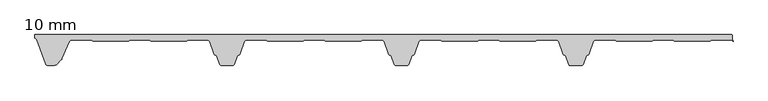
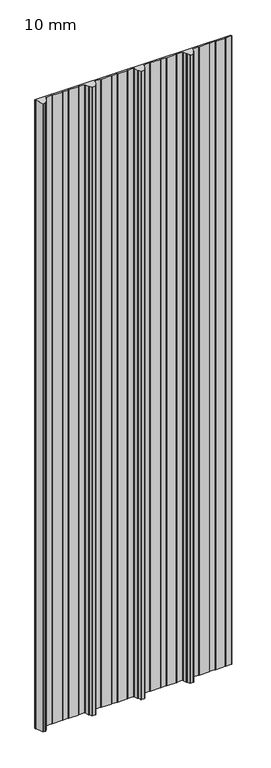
"""IFC4 building model written with IfcOpenShell, lengths in millimetres: plate geometry, HIANSA PANEL - H20.F01.011-PANELES DE CUBIERTA SIN TAPAJUNTA - EASY BOARD 5GR - Panel de Muro Cortina : 10 mm."""

from ifc_helpers import new_model, si_unit, point, frame, frame_2d, origin, place, context, project, spatial, polyline, circle_curve, trimmed, segment, composite_curve, outline, extrude, source, transform, mapped, element, save


def plate_10_mm_2f83bd50(model_context):
    return source(origin(), model_context, "Body", "SweptSolid", [
        extrude(outline(composite_curve([segment(polyline([(38.1345762, -522.6618875), (2.7449496, -509.7811169)]), True, "CONTINUOUS"), segment(trimmed(circle_curve(frame_2d((3.6, -507.4318853)), 2.5), [point((2.7449496, -509.7811169))], [point((1.1, -507.4318853))], False, "CARTESIAN"), True, "CONTINUOUS"), segment(polyline([(1.1, -507.4318853), (1.1, -497.4471173)]), True, "CONTINUOUS"), segment(trimmed(circle_curve(frame_2d((5.6, -497.4471173)), 4.5), [point((1.1, -497.4471173))], [point((2.4180195, -494.2651368))], False, "CARTESIAN"), True, "CONTINUOUS"), segment(polyline([(2.4180195, -494.2651368), (9.1048005, -487.5783558)]), True, "CONTINUOUS"), segment(trimmed(circle_curve(frame_2d((12.286781, -490.7603364)), 4.5), [point((9.1048005, -487.5783558))], [point((10.4972958, -486.6314451))], False, "CARTESIAN"), True, "CONTINUOUS"), segment(polyline([(10.4972958, -486.6314451), (35.3918218, -475.8420145)]), True, "CONTINUOUS"), segment(trimmed(circle_curve(frame_2d((34.0, -472.6306546)), 3.5), [point((35.3918218, -475.8420145))], [point((37.5, -472.6306546))], True, "CARTESIAN"), True, "CONTINUOUS"), segment(polyline([(37.5, -472.6306546), (37.5, -444.7657417)]), True, "CONTINUOUS"), segment(trimmed(circle_curve(frame_2d((35.0, -444.7657417)), 2.5), [point((37.5, -444.7657417))], [point((36.95557, -443.2082611))], True, "CARTESIAN"), True, "CONTINUOUS"), segment(polyline([(36.95557, -443.2082611), (36.3347606, -442.5534599)]), True, "CONTINUOUS"), segment(trimmed(circle_curve(frame_2d((37.5, -441.6088875)), 1.5), [point((36.3347606, -442.5534599))], [point((36.0, -441.6088875))], False, "CARTESIAN"), True, "CONTINUOUS"), segment(polyline([(36.0, -441.6088875), (36.0, -391.6076541)]), True, "CONTINUOUS"), segment(trimmed(circle_curve(frame_2d((37.5, -391.6076541)), 1.5), [point((36.0, -391.6076541))], [point((36.3347606, -390.6630817))], False, "CARTESIAN"), True, "CONTINUOUS"), segment(polyline([(36.3347606, -390.6630817), (36.95557, -390.0082805)]), True, "CONTINUOUS"), segment(trimmed(circle_curve(frame_2d((35.0, -388.4507998)), 2.5), [point((36.95557, -390.0082805))], [point((37.5, -388.4507998))], True, "CARTESIAN"), True, "CONTINUOUS"), segment(polyline([(37.5, -388.4507998), (37.5, -361.4324084)]), True, "CONTINUOUS"), segment(trimmed(circle_curve(frame_2d((35.0, -361.4324084)), 2.5), [point((37.5, -361.4324084))], [point((36.95557, -359.8749278))], True, "CARTESIAN"), True, "CONTINUOUS"), segment(polyline([(36.95557, -359.8749278), (36.3347606, -359.2201266)]), True, "CONTINUOUS"), segment(trimmed(circle_curve(frame_2d((37.5, -358.2755541)), 1.5), [point((36.3347606, -359.2201266))], [point((36.0, -358.2755541))], False, "CARTESIAN"), True, "CONTINUOUS"), segment(polyline([(36.0, -358.2755541), (36.0, -308.2743208)]), True, "CONTINUOUS"), segment(trimmed(circle_curve(frame_2d((37.5, -308.2743208)), 1.5), [point((36.0, -308.2743208))], [point((36.3347606, -307.3297483))], False, "CARTESIAN"), True, "CONTINUOUS"), segment(polyline([(36.3347606, -307.3297483), (36.95557, -306.6749471)]), True, "CONTINUOUS"), segment(trimmed(circle_curve(frame_2d((35.0, -305.1174665)), 2.5), [point((36.95557, -306.6749471))], [point((37.5, -305.1174665))], True, "CARTESIAN"), True, "CONTINUOUS"), segment(polyline([(37.5, -305.1174665), (37.5, -278.1575135)]), True, "CONTINUOUS"), segment(trimmed(circle_curve(frame_2d((34.0, -278.1575135)), 3.5), [point((37.5, -278.1575135))], [point((35.1970706, -274.8685893))], True, "CARTESIAN"), True, "CONTINUOUS"), segment(polyline([(35.1970706, -274.8685893), (16.7388909, -268.1503606)]), True, "CONTINUOUS"), segment(trimmed(circle_curve(frame_2d((17.1151131, -267.1166987)), 1.1), [point((16.7388909, -268.1503606))], [point((16.0814512, -267.4929209))], False, "CARTESIAN"), True, "CONTINUOUS"), segment(polyline([(16.0814512, -267.4929209), (15.4095389, -265.646857)]), True, "CONTINUOUS"), segment(trimmed(circle_curve(frame_2d((14.0, -266.1598872)), 1.5), [point((15.4095389, -265.646857))], [point((14.5130302, -264.7503483))], True, "CARTESIAN"), True, "CONTINUOUS"), segment(polyline([(14.5130302, -264.7503483), (2.5397376, -260.3924262)]), True, "CONTINUOUS"), segment(trimmed(circle_curve(frame_2d((3.6, -257.479379)), 3.1), [point((2.5397376, -260.3924262))], [point((0.5, -257.479379))], False, "CARTESIAN"), True, "CONTINUOUS"), segment(polyline([(0.5, -257.479379), (0.5, -242.5207053)]), True, "CONTINUOUS"), segment(trimmed(circle_curve(frame_2d((3.6, -242.5207053)), 3.1), [point((0.5, -242.5207053))], [point((2.5397376, -239.6076582))], False, "CARTESIAN"), True, "CONTINUOUS"), segment(polyline([(2.5397376, -239.6076582), (14.5130302, -235.249736)]), True, "CONTINUOUS"), segment(trimmed(circle_curve(frame_2d((14.0, -233.8401971)), 1.5), [point((14.5130302, -235.249736))], [point((15.4095389, -234.3532273))], True, "CARTESIAN"), True, "CONTINUOUS"), segment(polyline([(15.4095389, -234.3532273), (16.0814512, -232.5071635)]), True, "CONTINUOUS"), segment(trimmed(circle_curve(frame_2d((17.1151131, -232.8833856)), 1.1), [point((16.0814512, -232.5071635))], [point((16.7388909, -231.8497238))], False, "CARTESIAN"), True, "CONTINUOUS"), segment(polyline([(16.7388909, -231.8497238), (35.1970706, -225.131495)]), True, "CONTINUOUS"), segment(trimmed(circle_curve(frame_2d((34.0, -221.8425709)), 3.5), [point((35.1970706, -225.131495))], [point((37.5, -221.8425709))], True, "CARTESIAN"), True, "CONTINUOUS"), segment(polyline([(37.5, -221.8425709), (37.5, -194.7657417)]), True, "CONTINUOUS"), segment(trimmed(circle_curve(frame_2d((35.0, -194.7657417)), 2.5), [point((37.5, -194.7657417))], [point((36.95557, -193.2082611))], True, "CARTESIAN"), True, "CONTINUOUS"), segment(polyline([(36.95557, -193.2082611), (36.3347606, -192.5534599)]), True, "CONTINUOUS"), segment(trimmed(circle_curve(frame_2d((37.5, -191.6088875)), 1.5), [point((36.3347606, -192.5534599))], [point((36.0, -191.6088875))], False, "CARTESIAN"), True, "CONTINUOUS"), segment(polyline([(36.0, -191.6088875), (36.0, -141.6076541)]), True, "CONTINUOUS"), segment(trimmed(circle_curve(frame_2d((37.5, -141.6076541)), 1.5), [point((36.0, -141.6076541))], [point((36.3347606, -140.6630817))], False, "CARTESIAN"), True, "CONTINUOUS"), segment(polyline([(36.3347606, -140.6630817), (36.95557, -140.0082805)]), True, "CONTINUOUS"), segment(trimmed(circle_curve(frame_2d((35.0, -138.4507998)), 2.5), [point((36.95557, -140.0082805))], [point((37.5, -138.4507998))], True, "CARTESIAN"), True, "CONTINUOUS"), segment(polyline([(37.5, -138.4507998), (37.5, -111.4324084)]), True, "CONTINUOUS"), segment(trimmed(circle_curve(frame_2d((35.0, -111.4324084)), 2.5), [point((37.5, -111.4324084))], [point((36.95557, -109.8749278))], True, "CARTESIAN"), True, "CONTINUOUS"), segment(polyline([(36.95557, -109.8749278), (36.3347606, -109.2201266)]), True, "CONTINUOUS"), segment(trimmed(circle_curve(frame_2d((37.5, -108.2755541)), 1.5), [point((36.3347606, -109.2201266))], [point((36.0, -108.2755541))], False, "CARTESIAN"), True, "CONTINUOUS"), segment(polyline([(36.0, -108.2755541), (36.0, -58.2743208)]), True, "CONTINUOUS"), segment(trimmed(circle_curve(frame_2d((37.5, -58.2743208)), 1.5), [point((36.0, -58.2743208))], [point((36.3347606, -57.3297483))], False, "CARTESIAN"), True, "CONTINUOUS"), segment(polyline([(36.3347606, -57.3297483), (36.95557, -56.6749471)]), True, "CONTINUOUS"), segment(trimmed(circle_curve(frame_2d((35.0, -55.1174665)), 2.5), [point((36.95557, -56.6749471))], [point((37.5, -55.1174665))], True, "CARTESIAN"), True, "CONTINUOUS"), segment(polyline([(37.5, -55.1174665), (37.5, -28.0990754)]), True, "CONTINUOUS"), segment(trimmed(circle_curve(frame_2d((34.0, -28.0990754)), 3.5), [point((37.5, -28.0990754))], [point((35.1970706, -24.8101513))], True, "CARTESIAN"), True, "CONTINUOUS"), segment(polyline([(35.1970706, -24.8101513), (16.7388909, -18.0919225)]), True, "CONTINUOUS"), segment(trimmed(circle_curve(frame_2d((17.1151131, -17.0582607)), 1.1), [point((16.7388909, -18.0919225))], [point((16.0814512, -17.4344828))], False, "CARTESIAN"), True, "CONTINUOUS"), segment(polyline([(16.0814512, -17.4344828), (15.4095389, -15.588419)]), True, "CONTINUOUS"), segment(trimmed(circle_curve(frame_2d((14.0, -16.1014492)), 1.5), [point((15.4095389, -15.588419))], [point((14.5130302, -14.6919103))], True, "CARTESIAN"), True, "CONTINUOUS"), segment(polyline([(14.5130302, -14.6919103), (2.5397376, -10.3339881)]), True, "CONTINUOUS"), segment(trimmed(circle_curve(frame_2d((3.6, -7.420941)), 3.1), [point((2.5397376, -10.3339881))], [point((0.5, -7.420941))], False, "CARTESIAN"), True, "CONTINUOUS"), segment(polyline([(0.5, -7.420941), (0.5, 7.5377327)]), True, "CONTINUOUS"), segment(trimmed(circle_curve(frame_2d((3.6, 7.5377327)), 3.1), [point((0.5, 7.5377327))], [point((2.5397376, 10.4507799))], False, "CARTESIAN"), True, "CONTINUOUS"), segment(polyline([(2.5397376, 10.4507799), (14.5130302, 14.808702)]), True, "CONTINUOUS"), segment(trimmed(circle_curve(frame_2d((14.0, 16.2182409)), 1.5), [point((14.5130302, 14.808702))], [point((15.4095389, 15.7052107))], True, "CARTESIAN"), True, "CONTINUOUS"), segment(polyline([(15.4095389, 15.7052107), (16.0814512, 17.5512746)]), True, "CONTINUOUS"), segment(trimmed(circle_curve(frame_2d((17.1151131, 17.1750524)), 1.1), [point((16.0814512, 17.5512746))], [point((16.7388909, 18.2087143))], False, "CARTESIAN"), True, "CONTINUOUS"), segment(polyline([(16.7388909, 18.2087143), (35.1970706, 24.926943)]), True, "CONTINUOUS"), segment(trimmed(circle_curve(frame_2d((34.0, 28.2158672)), 3.5), [point((35.1970706, 24.926943))], [point((37.5, 28.2158672))], True, "CARTESIAN"), True, "CONTINUOUS"), segment(polyline([(37.5, 28.2158672), (37.5, 55.2342583)]), True, "CONTINUOUS"), segment(trimmed(circle_curve(frame_2d((35.0, 55.2342583)), 2.5), [point((37.5, 55.2342583))], [point((36.95557, 56.7917389))], True, "CARTESIAN"), True, "CONTINUOUS"), segment(polyline([(36.95557, 56.7917389), (36.3347606, 57.4465401)]), True, "CONTINUOUS"), segment(trimmed(circle_curve(frame_2d((37.5, 58.3911125)), 1.5), [point((36.3347606, 57.4465401))], [point((36.0, 58.3911125))], False, "CARTESIAN"), True, "CONTINUOUS"), segment(polyline([(36.0, 58.3911125), (36.0, 108.3923459)]), True, "CONTINUOUS"), segment(trimmed(circle_curve(frame_2d((37.5, 108.3923459)), 1.5), [point((36.0, 108.3923459))], [point((36.3347606, 109.3369183))], False, "CARTESIAN"), True, "CONTINUOUS"), segment(polyline([(36.3347606, 109.3369183), (36.95557, 109.9917195)]), True, "CONTINUOUS"), segment(trimmed(circle_curve(frame_2d((35.0, 111.5492002)), 2.5), [point((36.95557, 109.9917195))], [point((37.5, 111.5492002))], True, "CARTESIAN"), True, "CONTINUOUS"), segment(polyline([(37.5, 111.5492002), (37.5, 138.5675916)]), True, "CONTINUOUS"), segment(trimmed(circle_curve(frame_2d((35.0, 138.5675916)), 2.5), [point((37.5, 138.5675916))], [point((36.95557, 140.1250722))], True, "CARTESIAN"), True, "CONTINUOUS"), segment(polyline([(36.95557, 140.1250722), (36.3347606, 140.7798734)]), True, "CONTINUOUS"), segment(trimmed(circle_curve(frame_2d((37.5, 141.7244459)), 1.5), [point((36.3347606, 140.7798734))], [point((36.0, 141.7244459))], False, "CARTESIAN"), True, "CONTINUOUS"), segment(polyline([(36.0, 141.7244459), (36.0, 191.7256792)]), True, "CONTINUOUS"), segment(trimmed(circle_curve(frame_2d((37.5, 191.7256792)), 1.5), [point((36.0, 191.7256792))], [point((36.3347606, 192.6702517))], False, "CARTESIAN"), True, "CONTINUOUS"), segment(polyline([(36.3347606, 192.6702517), (36.95557, 193.3250529)]), True, "CONTINUOUS"), segment(trimmed(circle_curve(frame_2d((35.0, 194.8825335)), 2.5), [point((36.95557, 193.3250529))], [point((37.5, 194.8825335))], True, "CARTESIAN"), True, "CONTINUOUS"), segment(polyline([(37.5, 194.8825335), (37.5, 221.8424865)]), True, "CONTINUOUS"), segment(trimmed(circle_curve(frame_2d((34.0, 221.8424865)), 3.5), [point((37.5, 221.8424865))], [point((35.1970706, 225.1314107))], True, "CARTESIAN"), True, "CONTINUOUS"), segment(polyline([(35.1970706, 225.1314107), (16.7388909, 231.8496394)]), True, "CONTINUOUS"), segment(trimmed(circle_curve(frame_2d((17.1151131, 232.8833013)), 1.1), [point((16.7388909, 231.8496394))], [point((16.0814512, 232.5070791))], False, "CARTESIAN"), True, "CONTINUOUS"), segment(polyline([(16.0814512, 232.5070791), (15.4095389, 234.353143)]), True, "CONTINUOUS"), segment(trimmed(circle_curve(frame_2d((14.0, 233.8401128)), 1.5), [point((15.4095389, 234.353143))], [point((14.5130302, 235.2496517))], True, "CARTESIAN"), True, "CONTINUOUS"), segment(polyline([(14.5130302, 235.2496517), (2.5397376, 239.6075738)]), True, "CONTINUOUS"), segment(trimmed(circle_curve(frame_2d((3.6, 242.520621)), 3.1), [point((2.5397376, 239.6075738))], [point((0.5, 242.520621))], False, "CARTESIAN"), True, "CONTINUOUS"), segment(polyline([(0.5, 242.520621), (0.5, 257.4792947)]), True, "CONTINUOUS"), segment(trimmed(circle_curve(frame_2d((3.6, 257.4792947)), 3.1), [point((0.5, 257.4792947))], [point((2.5397376, 260.3923418))], False, "CARTESIAN"), True, "CONTINUOUS"), segment(polyline([(2.5397376, 260.3923418), (14.5130302, 264.750264)]), True, "CONTINUOUS"), segment(trimmed(circle_curve(frame_2d((14.0, 266.1598029)), 1.5), [point((14.5130302, 264.750264))], [point((15.4095389, 265.6467727))], True, "CARTESIAN"), True, "CONTINUOUS"), segment(polyline([(15.4095389, 265.6467727), (16.0814512, 267.4928365)]), True, "CONTINUOUS"), segment(trimmed(circle_curve(frame_2d((17.1151131, 267.1166144)), 1.1), [point((16.0814512, 267.4928365))], [point((16.7388909, 268.1502762))], False, "CARTESIAN"), True, "CONTINUOUS"), segment(polyline([(16.7388909, 268.1502762), (35.1970706, 274.868505)]), True, "CONTINUOUS"), segment(trimmed(circle_curve(frame_2d((34.0, 278.1574291)), 3.5), [point((35.1970706, 274.868505))], [point((37.5, 278.1574291))], True, "CARTESIAN"), True, "CONTINUOUS"), segment(polyline([(37.5, 278.1574291), (37.5, 305.2342583)]), True, "CONTINUOUS"), segment(trimmed(circle_curve(frame_2d((35.0, 305.2342583)), 2.5), [point((37.5, 305.2342583))], [point((36.95557, 306.7917389))], True, "CARTESIAN"), True, "CONTINUOUS"), segment(polyline([(36.95557, 306.7917389), (36.3347606, 307.4465401)]), True, "CONTINUOUS"), segment(trimmed(circle_curve(frame_2d((37.5, 308.3911125)), 1.5), [point((36.3347606, 307.4465401))], [point((36.0, 308.3911125))], False, "CARTESIAN"), True, "CONTINUOUS"), segment(polyline([(36.0, 308.3911125), (36.0, 358.3923459)]), True, "CONTINUOUS"), segment(trimmed(circle_curve(frame_2d((37.5, 358.3923459)), 1.5), [point((36.0, 358.3923459))], [point((36.3347606, 359.3369183))], False, "CARTESIAN"), True, "CONTINUOUS"), segment(polyline([(36.3347606, 359.3369183), (36.95557, 359.9917195)]), True, "CONTINUOUS"), segment(trimmed(circle_curve(frame_2d((35.0, 361.5492002)), 2.5), [point((36.95557, 359.9917195))], [point((37.5, 361.5492002))], True, "CARTESIAN"), True, "CONTINUOUS"), segment(polyline([(37.5, 361.5492002), (37.5, 388.5675916)]), True, "CONTINUOUS"), segment(trimmed(circle_curve(frame_2d((35.0, 388.5675916)), 2.5), [point((37.5, 388.5675916))], [point((36.95557, 390.1250722))], True, "CARTESIAN"), True, "CONTINUOUS"), segment(polyline([(36.95557, 390.1250722), (36.3347606, 390.7798734)]), True, "CONTINUOUS"), segment(trimmed(circle_curve(frame_2d((37.5, 391.7244459)), 1.5), [point((36.3347606, 390.7798734))], [point((36.0, 391.7244459))], False, "CARTESIAN"), True, "CONTINUOUS"), segment(polyline([(36.0, 391.7244459), (36.0, 441.7256792)]), True, "CONTINUOUS"), segment(trimmed(circle_curve(frame_2d((37.5, 441.7256792)), 1.5), [point((36.0, 441.7256792))], [point((36.3347606, 442.6702517))], False, "CARTESIAN"), True, "CONTINUOUS"), segment(polyline([(36.3347606, 442.6702517), (36.95557, 443.3250529)]), True, "CONTINUOUS"), segment(trimmed(circle_curve(frame_2d((35.0, 444.8825335)), 2.5), [point((36.95557, 443.3250529))], [point((37.5, 444.8825335))], True, "CARTESIAN"), True, "CONTINUOUS"), segment(polyline([(37.5, 444.8825335), (37.5, 471.9009246)]), True, "CONTINUOUS"), segment(trimmed(circle_curve(frame_2d((33.9, 471.9009246)), 3.6), [point((37.5, 471.9009246))], [point((35.3642519, 475.1896882))], True, "CARTESIAN"), True, "CONTINUOUS"), segment(polyline([(35.3642519, 475.1896882), (38.6227586, 473.7389076), (44.4995778, 473.7344089)]), True, "CONTINUOUS"), segment(trimmed(circle_curve(frame_2d((44.4995481, 473.233957)), 0.5004519), [point((44.4995778, 473.7344089))], [point((45.0, 473.233957))], False, "CARTESIAN"), True, "CONTINUOUS"), segment(polyline([(45.0, 473.233957), (45.0, -525.2694232), (40.0367544, -525.2694232), (38.605703, -523.4018496), (38.1345762, -522.6618875)]), True, "CONTINUOUS")], self_intersect=False)), frame((0.0, 0.0, 3390.8509027), z_axis=(0.0, 0.0, -1.0), x_axis=(0.0, 1.0, 0.0)), (0.0, 0.0, 1.0), 3390.8509027),
    ])


if __name__ == "__main__":
    model = new_model("IFC4")
    model_context = context("Model", 3, world=origin())
    ifc_project = project(units=[si_unit("LENGTHUNIT", "METRE", prefix="MILLI")], contexts=[model_context])
    site = spatial("IfcSite", under=ifc_project)
    building = spatial("IfcBuilding", under=site)
    placement = place(None, origin())
    plate_10_mm_shape = plate_10_mm_2f83bd50(model_context)
    element("IfcPlate", 1, ObjectType="HIANSA PANEL - H20.F01.011-PANELES DE CUBIERTA SIN TAPAJUNTA - EASY BOARD 5GR - Panel de Muro Cortina : 10 mm", at=placement, inside=building, context=model_context, shape_type="MappedRepresentation", body=[
        mapped(plate_10_mm_shape, transform((0.0, 0.0, 0.0), x_axis=(1.0, 0.0, 0.0), y_axis=(0.0, 1.0, 0.0), z_axis=(0.0, 0.0, 1.0))),
    ])
    save(model, "model.ifc")
